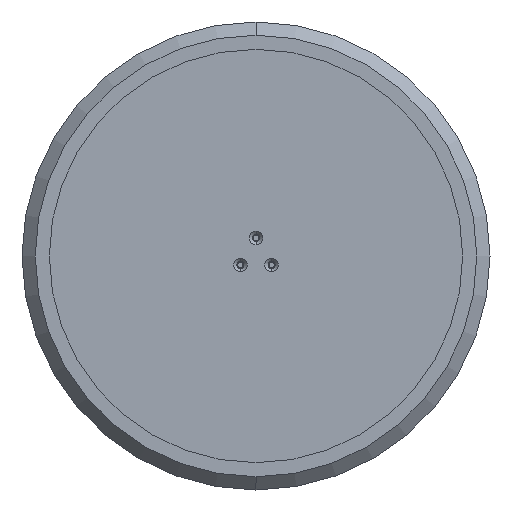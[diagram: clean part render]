
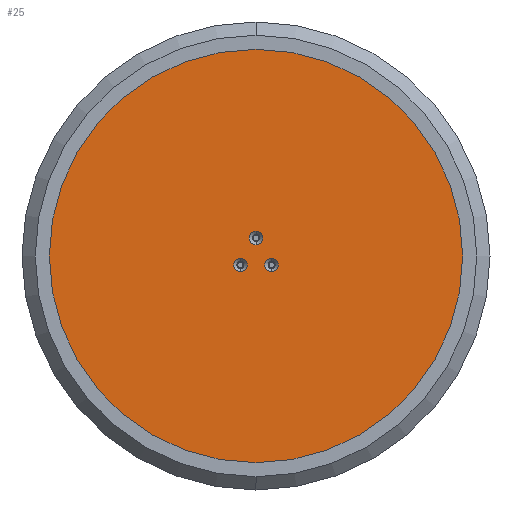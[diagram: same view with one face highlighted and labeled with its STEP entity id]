
A CAD part, front view. The second image highlights one B-rep face of the part: STEP entity #25.
In plain terms, the highlighted planar face has unit normal (0, -1, 0).
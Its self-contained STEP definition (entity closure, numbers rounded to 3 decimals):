
#25 = ADVANCED_FACE ( 'NONE', ( #4144, #1024, #4122, #4173 ), #662, .F. ) ;
#299 = CIRCLE ( 'NONE', #4213, 8.65 ) ;
#302 = EDGE_LOOP ( 'NONE', ( #2637, #4131 ) ) ;
#334 = EDGE_CURVE ( 'NONE', #3299, #2347, #528, .T. ) ;
#437 = EDGE_CURVE ( 'NONE', #1840, #4277, #299, .T. ) ;
#465 = CARTESIAN_POINT ( 'NONE',  ( 0., 0., 14.444 ) ) ;
#480 = DIRECTION ( 'NONE',  ( 0., -1., 0. ) ) ;
#494 = CARTESIAN_POINT ( 'NONE',  ( 0., 0., 265. ) ) ;
#502 = VERTEX_POINT ( 'NONE', #2600 ) ;
#510 = ORIENTED_EDGE ( 'NONE', *, *, #4127, .F. ) ;
#528 = CIRCLE ( 'NONE', #742, 265. ) ;
#542 = VERTEX_POINT ( 'NONE', #3295 ) ;
#642 = DIRECTION ( 'NONE',  ( 0., 0., 1. ) ) ;
#644 = DIRECTION ( 'NONE',  ( 0., 0., -1. ) ) ;
#662 = PLANE ( 'NONE',  #1989 ) ;
#741 = DIRECTION ( 'NONE',  ( 0., -1., 0. ) ) ;
#742 = AXIS2_PLACEMENT_3D ( 'NONE', #3805, #1665, #2293 ) ;
#836 = AXIS2_PLACEMENT_3D ( 'NONE', #1512, #480, #3242 ) ;
#845 = CARTESIAN_POINT ( 'NONE',  ( -20., 0., -11.547 ) ) ;
#958 = CARTESIAN_POINT ( 'NONE',  ( 0., 0., 0. ) ) ;
#1024 = FACE_BOUND ( 'NONE', #302, .T. ) ;
#1088 = EDGE_CURVE ( 'NONE', #4277, #1840, #4289, .T. ) ;
#1116 = AXIS2_PLACEMENT_3D ( 'NONE', #1904, #3621, #1140 ) ;
#1140 = DIRECTION ( 'NONE',  ( 0., 0., 1. ) ) ;
#1200 = CIRCLE ( 'NONE', #836, 8.65 ) ;
#1276 = CIRCLE ( 'NONE', #4524, 8.65 ) ;
#1499 = CARTESIAN_POINT ( 'NONE',  ( 0., 0., 23.094 ) ) ;
#1512 = CARTESIAN_POINT ( 'NONE',  ( 20., 0., -11.547 ) ) ;
#1596 = EDGE_LOOP ( 'NONE', ( #510, #3470 ) ) ;
#1615 = ORIENTED_EDGE ( 'NONE', *, *, #1088, .F. ) ;
#1648 = AXIS2_PLACEMENT_3D ( 'NONE', #4240, #741, #1836 ) ;
#1665 = DIRECTION ( 'NONE',  ( 0., 1., 0. ) ) ;
#1699 = AXIS2_PLACEMENT_3D ( 'NONE', #3478, #2109, #644 ) ;
#1836 = DIRECTION ( 'NONE',  ( 0., 0., -1. ) ) ;
#1840 = VERTEX_POINT ( 'NONE', #3668 ) ;
#1846 = ORIENTED_EDGE ( 'NONE', *, *, #437, .F. ) ;
#1904 = CARTESIAN_POINT ( 'NONE',  ( 0., 0., 0. ) ) ;
#1981 = EDGE_CURVE ( 'NONE', #542, #3224, #3048, .T. ) ;
#1989 = AXIS2_PLACEMENT_3D ( 'NONE', #958, #3829, #642 ) ;
#2096 = DIRECTION ( 'NONE',  ( 0., -1., 0. ) ) ;
#2109 = DIRECTION ( 'NONE',  ( 0., -1., 0. ) ) ;
#2117 = DIRECTION ( 'NONE',  ( 0., 0., -1. ) ) ;
#2215 = VERTEX_POINT ( 'NONE', #2829 ) ;
#2293 = DIRECTION ( 'NONE',  ( 0., 0., 1. ) ) ;
#2322 = CIRCLE ( 'NONE', #1648, 8.65 ) ;
#2347 = VERTEX_POINT ( 'NONE', #494 ) ;
#2574 = CARTESIAN_POINT ( 'NONE',  ( 0., 0., -265. ) ) ;
#2600 = CARTESIAN_POINT ( 'NONE',  ( 20., 0., -20.197 ) ) ;
#2637 = ORIENTED_EDGE ( 'NONE', *, *, #3822, .F. ) ;
#2829 = CARTESIAN_POINT ( 'NONE',  ( 20., 0., -2.897 ) ) ;
#2958 = DIRECTION ( 'NONE',  ( 0., -1., 0. ) ) ;
#3048 = CIRCLE ( 'NONE', #4356, 8.65 ) ;
#3058 = ORIENTED_EDGE ( 'NONE', *, *, #3320, .F. ) ;
#3224 = VERTEX_POINT ( 'NONE', #3227 ) ;
#3227 = CARTESIAN_POINT ( 'NONE',  ( -20., 0., -20.197 ) ) ;
#3242 = DIRECTION ( 'NONE',  ( 0., 0., -1. ) ) ;
#3295 = CARTESIAN_POINT ( 'NONE',  ( -20., 0., -2.897 ) ) ;
#3299 = VERTEX_POINT ( 'NONE', #2574 ) ;
#3320 = EDGE_CURVE ( 'NONE', #2347, #3299, #3347, .T. ) ;
#3347 = CIRCLE ( 'NONE', #1116, 265. ) ;
#3429 = EDGE_LOOP ( 'NONE', ( #1615, #1846 ) ) ;
#3446 = ORIENTED_EDGE ( 'NONE', *, *, #334, .F. ) ;
#3458 = DIRECTION ( 'NONE',  ( 0., -1., 0. ) ) ;
#3470 = ORIENTED_EDGE ( 'NONE', *, *, #1981, .F. ) ;
#3478 = CARTESIAN_POINT ( 'NONE',  ( 0., 0., 23.094 ) ) ;
#3621 = DIRECTION ( 'NONE',  ( 0., 1., 0. ) ) ;
#3668 = CARTESIAN_POINT ( 'NONE',  ( 0., 0., 31.744 ) ) ;
#3742 = EDGE_CURVE ( 'NONE', #2215, #502, #1276, .T. ) ;
#3805 = CARTESIAN_POINT ( 'NONE',  ( 0., 0., 0. ) ) ;
#3822 = EDGE_CURVE ( 'NONE', #502, #2215, #1200, .T. ) ;
#3829 = DIRECTION ( 'NONE',  ( 0., 1., 0. ) ) ;
#3850 = DIRECTION ( 'NONE',  ( 0., 0., -1. ) ) ;
#4122 = FACE_BOUND ( 'NONE', #1596, .T. ) ;
#4127 = EDGE_CURVE ( 'NONE', #3224, #542, #2322, .T. ) ;
#4131 = ORIENTED_EDGE ( 'NONE', *, *, #3742, .F. ) ;
#4144 = FACE_BOUND ( 'NONE', #3429, .T. ) ;
#4173 = FACE_OUTER_BOUND ( 'NONE', #4454, .T. ) ;
#4200 = CARTESIAN_POINT ( 'NONE',  ( 20., 0., -11.547 ) ) ;
#4213 = AXIS2_PLACEMENT_3D ( 'NONE', #1499, #2958, #4361 ) ;
#4240 = CARTESIAN_POINT ( 'NONE',  ( -20., 0., -11.547 ) ) ;
#4277 = VERTEX_POINT ( 'NONE', #465 ) ;
#4289 = CIRCLE ( 'NONE', #1699, 8.65 ) ;
#4356 = AXIS2_PLACEMENT_3D ( 'NONE', #845, #3458, #3850 ) ;
#4361 = DIRECTION ( 'NONE',  ( 0., 0., -1. ) ) ;
#4454 = EDGE_LOOP ( 'NONE', ( #3446, #3058 ) ) ;
#4524 = AXIS2_PLACEMENT_3D ( 'NONE', #4200, #2096, #2117 ) ;
